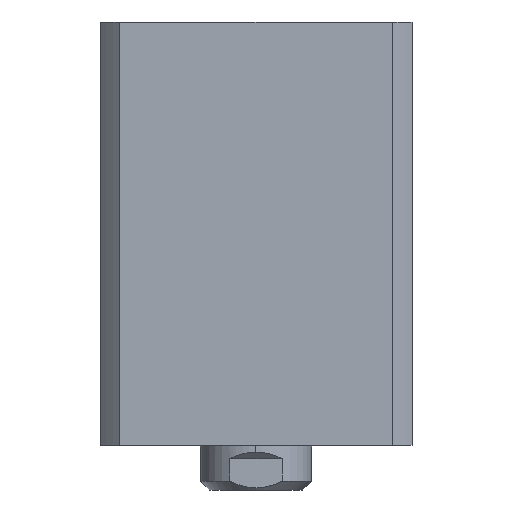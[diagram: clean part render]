
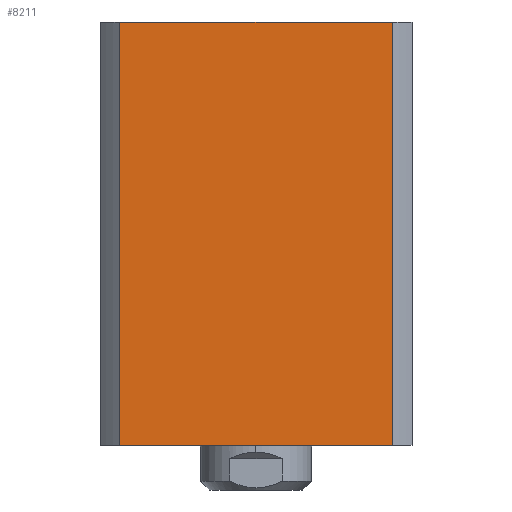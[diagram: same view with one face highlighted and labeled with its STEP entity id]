
A CAD part, front view. The second image highlights one B-rep face of the part: STEP entity #8211.
In plain terms, the highlighted planar face has unit normal (0, -1, 0) as drawn and (1, 0, 0) by its records, which use the part's own axes.
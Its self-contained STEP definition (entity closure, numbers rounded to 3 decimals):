
#65 = VERTEX_POINT ( 'NONE', #7892 ) ;
#220 = DIRECTION ( 'NONE',  ( 0., 0., 1. ) ) ;
#1340 = DIRECTION ( 'NONE',  ( 0., 1., 0. ) ) ;
#1341 = DIRECTION ( 'NONE',  ( -1., 0., 0. ) ) ;
#1759 = LINE ( 'NONE', #6529, #3593 ) ;
#1852 = DIRECTION ( 'NONE',  ( 0., 1., 0. ) ) ;
#1887 = CARTESIAN_POINT ( 'NONE',  ( 35., 30.615, 300. ) ) ;
#1910 = CARTESIAN_POINT ( 'NONE',  ( 35., 30.615, 95. ) ) ;
#2701 = CARTESIAN_POINT ( 'NONE',  ( 35., -30.615, 95. ) ) ;
#2744 = ORIENTED_EDGE ( 'NONE', *, *, #5023, .F. ) ;
#2845 = LINE ( 'NONE', #6002, #6973 ) ;
#3211 = VERTEX_POINT ( 'NONE', #4392 ) ;
#3433 = DIRECTION ( 'NONE',  ( 0., 0., -1. ) ) ;
#3472 = VECTOR ( 'NONE', #220, 1000. ) ;
#3593 = VECTOR ( 'NONE', #1852, 1000. ) ;
#3821 = EDGE_CURVE ( 'NONE', #6031, #65, #6984, .T. ) ;
#3929 = VERTEX_POINT ( 'NONE', #2701 ) ;
#4392 = CARTESIAN_POINT ( 'NONE',  ( 35., -30.615, 0. ) ) ;
#4456 = CARTESIAN_POINT ( 'NONE',  ( 35., 35., 95. ) ) ;
#4687 = EDGE_CURVE ( 'NONE', #3929, #6031, #1759, .T. ) ;
#4830 = EDGE_CURVE ( 'NONE', #3211, #65, #2845, .T. ) ;
#5023 = EDGE_CURVE ( 'NONE', #3211, #3929, #9661, .T. ) ;
#5305 = ORIENTED_EDGE ( 'NONE', *, *, #4830, .T. ) ;
#6002 = CARTESIAN_POINT ( 'NONE',  ( 35., 35., 0. ) ) ;
#6003 = PLANE ( 'NONE',  #7398 ) ;
#6031 = VERTEX_POINT ( 'NONE', #1910 ) ;
#6529 = CARTESIAN_POINT ( 'NONE',  ( 35., 35., 95. ) ) ;
#6787 = DIRECTION ( 'NONE',  ( 0., 0., 1. ) ) ;
#6973 = VECTOR ( 'NONE', #1340, 1000. ) ;
#6984 = LINE ( 'NONE', #1887, #9064 ) ;
#7146 = EDGE_LOOP ( 'NONE', ( #8825, #7962, #2744, #5305 ) ) ;
#7398 = AXIS2_PLACEMENT_3D ( 'NONE', #4456, #1341, #6787 ) ;
#7758 = FACE_OUTER_BOUND ( 'NONE', #7146, .T. ) ;
#7892 = CARTESIAN_POINT ( 'NONE',  ( 35., 30.615, 0. ) ) ;
#7962 = ORIENTED_EDGE ( 'NONE', *, *, #4687, .F. ) ;
#8211 = ADVANCED_FACE ( 'NONE', ( #7758 ), #6003, .F. ) ;
#8825 = ORIENTED_EDGE ( 'NONE', *, *, #3821, .F. ) ;
#9064 = VECTOR ( 'NONE', #3433, 1000. ) ;
#9545 = CARTESIAN_POINT ( 'NONE',  ( 35., -30.615, 300. ) ) ;
#9661 = LINE ( 'NONE', #9545, #3472 ) ;
